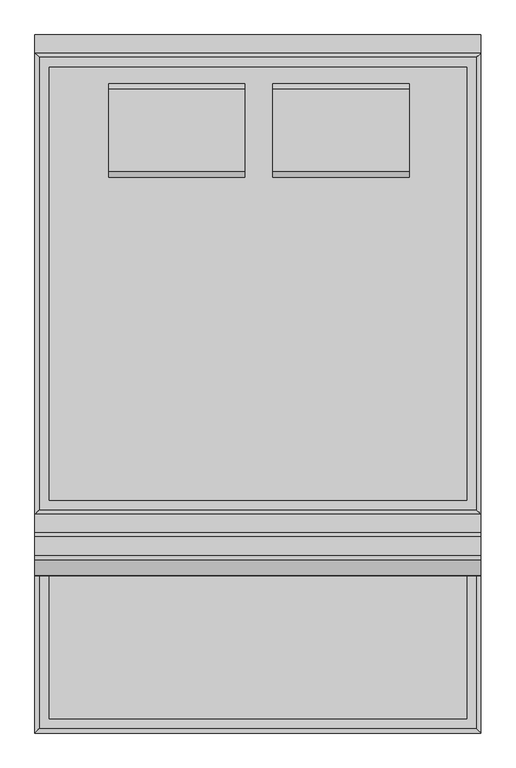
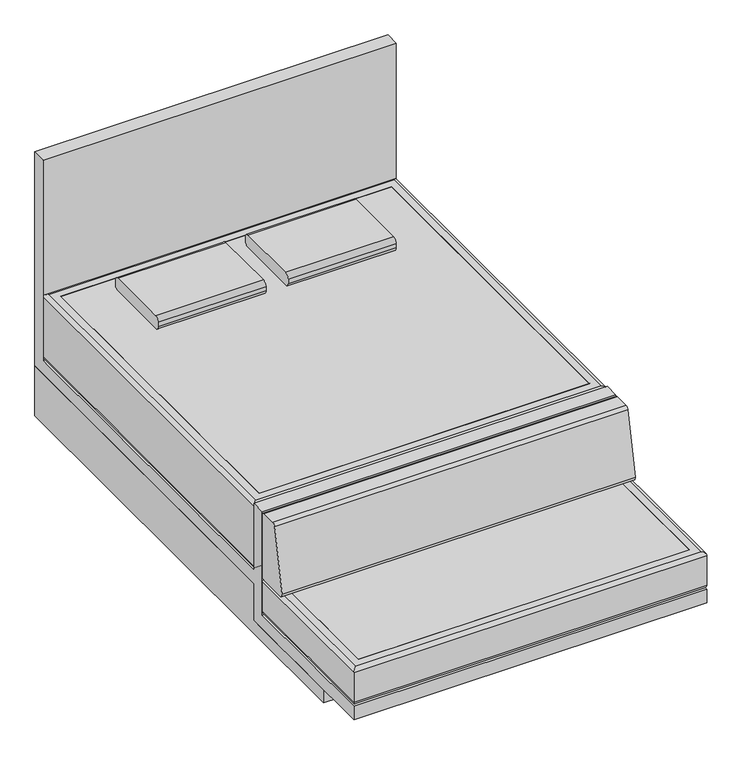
"""IFC4 building model written with IfcOpenShell, lengths in millimetres: proxy geometry, 双人床5 : 双人床5."""

from ifc_helpers import new_model, si_unit, point, frame, frame_2d, origin, place, context, project, spatial, polyline, circle_curve, ellipse_curve, trimmed, segment, composite_curve, outline, extrude, source, transform, mapped, element, save
from ifc_brep_helpers import plane_surface, cylinder_surface, advanced_brep


def generic_models_9412027a(model_context):
    return source(origin(), model_context, "Body", "SolidModel", [
        extrude(outline(polyline([(-780.0, 80.0), (-780.0, 160.0), (120.0, 160.0), (120.0, 780.0), (200.0, 780.0), (200.0, 380.0), (2270.0, 380.0), (2270.0, 1580.0), (2350.0, 1580.0), (2350.0, 380.0), (2350.0, 300.0), (200.0, 300.0), (200.0, 80.0), (120.0, 80.0), (-780.0, 80.0)])), frame((-1750.0, 0.0, 0.0), z_axis=(1.0, 0.0, 0.0), x_axis=(0.0, 1.0, 0.0)), (0.0, 0.0, 1.0), 2000.0),
        extrude(outline(polyline([(2350.0, 0.0), (-480.0, 0.0), (-480.0, 80.0), (120.0, 80.0), (200.0, 80.0), (200.0, 300.0), (2350.0, 300.0), (2350.0, 0.0)])), frame((170.0, 0.0, 0.0), z_axis=(1.0, 0.0, 0.0), x_axis=(0.0, 1.0, 0.0)), (0.0, 0.0, 1.0), 80.0),
        extrude(outline(polyline([(2350.0, 0.0), (-480.0, 0.0), (-480.0, 80.0), (120.0, 80.0), (200.0, 80.0), (200.0, 300.0), (2350.0, 300.0), (2350.0, 0.0)])), frame((-1750.0, 0.0, 0.0), z_axis=(1.0, 0.0, 0.0), x_axis=(0.0, 1.0, 0.0)), (0.0, 0.0, 1.0), 80.0),
        advanced_brep(
        [(250.0, 2270.0, 405.0), (250.0, 2270.0, 760.0), (250.0, 200.0, 760.0), (250.0, 200.0, 405.0), (225.0, 2245.0, 380.0), (225.0, 225.0, 380.0), (185.660139, 2205.660139, 780.0), (185.660139, 2205.660139, 380.0), (185.660139, 264.339861, 380.0), (185.660139, 264.339861, 780.0), (-1750.0, 200.0, 760.0), (-1750.0, 200.0, 405.0), (-1725.0, 225.0, 380.0), (-1685.660139, 264.339861, 380.0), (-1685.660139, 264.339861, 780.0), (-1750.0, 2270.0, 760.0), (-1750.0, 2270.0, 405.0), (-1725.0, 2245.0, 380.0), (-1685.660139, 2205.660139, 380.0), (-1685.660139, 2205.660139, 780.0), (230.0, 2250.0, 780.0), (230.0, 220.0, 780.0), (-1730.0, 220.0, 780.0), (-1730.0, 2250.0, 780.0)],
        [
            (0, 1),
            (1, 2),
            (2, 3),
            (3, 0),
            (4, 0, ellipse_curve(frame((225.0, 2245.0, 405.0), z_axis=(0.7071067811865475, -0.7071067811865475, 0.0), x_axis=(0.7071067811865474, 0.7071067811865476, 0.0)), 35.3553391, 25.0)),
            (3, 5, ellipse_curve(frame((225.0, 225.0, 405.0), z_axis=(0.7071067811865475, 0.7071067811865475, 0.0), x_axis=(-0.7071067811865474, 0.7071067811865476, 0.0)), 35.3553391, 25.0)),
            (5, 4),
            (6, 7),
            (7, 8),
            (8, 9),
            (9, 6),
            (2, 10),
            (10, 11),
            (11, 3),
            (11, 12, ellipse_curve(frame((-1725.0, 225.0, 405.0), z_axis=(0.7071067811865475, -0.7071067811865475, 0.0), x_axis=(0.7071067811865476, 0.7071067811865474, 0.0)), 35.3553391, 25.0)),
            (12, 5),
            (8, 13),
            (13, 14),
            (14, 9),
            (10, 15),
            (15, 16),
            (16, 11),
            (16, 17, ellipse_curve(frame((-1725.0, 2245.0, 405.0), z_axis=(-0.7071067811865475, -0.7071067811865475, 0.0), x_axis=(0.7071067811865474, -0.7071067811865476, 0.0)), 35.3553391, 25.0)),
            (17, 12),
            (13, 18),
            (18, 19),
            (19, 14),
            (15, 1),
            (0, 16),
            (4, 17),
            (7, 18),
            (6, 19),
            (1, 20, ellipse_curve(frame((230.0, 2250.0, 760.0), z_axis=(0.7071067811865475, -0.7071067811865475, 0.0), x_axis=(0.7071067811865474, 0.7071067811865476, 0.0)), 28.2842712, 20.0)),
            (20, 21),
            (21, 2, ellipse_curve(frame((230.0, 220.0, 760.0), z_axis=(0.7071067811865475, 0.7071067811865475, 0.0), x_axis=(-0.7071067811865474, 0.7071067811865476, 0.0)), 28.2842712, 20.0)),
            (21, 22),
            (22, 10, ellipse_curve(frame((-1730.0, 220.0, 760.0), z_axis=(0.7071067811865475, -0.7071067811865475, 0.0), x_axis=(0.7071067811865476, 0.7071067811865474, 0.0)), 28.2842712, 20.0)),
            (22, 23),
            (23, 15, ellipse_curve(frame((-1730.0, 2250.0, 760.0), z_axis=(-0.7071067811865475, -0.7071067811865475, 0.0), x_axis=(0.7071067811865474, -0.7071067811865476, 0.0)), 28.2842712, 20.0)),
            (20, 23),
        ],
        [
            plane_surface(frame((250.0, 2270.0, 760.0), z_axis=(1.0, 0.0, 0.0), x_axis=(0.0, -1.0, 0.0))),
            cylinder_surface(frame((225.0, 2270.0, 405.0), z_axis=(0.0, 1.0, 0.0), x_axis=(1.0, 0.0, 0.0)), 25.0),
            plane_surface(frame((185.660139, 2205.660139, 380.0), z_axis=(-1.0, 0.0, 0.0), x_axis=(0.0, -1.0, 0.0))),
            plane_surface(frame((250.0, 200.0, 760.0), z_axis=(0.0, -1.0, 0.0), x_axis=(-1.0, 0.0, 0.0))),
            cylinder_surface(frame((250.0, 225.0, 405.0), z_axis=(1.0, 0.0, 0.0), x_axis=(0.0, -1.0, 0.0)), 25.0),
            plane_surface(frame((185.660139, 264.339861, 380.0), z_axis=(0.0, 1.0, 0.0), x_axis=(-1.0, 0.0, 0.0))),
            plane_surface(frame((-1750.0, 200.0, 760.0), z_axis=(-1.0, 0.0, 0.0), x_axis=(0.0, 1.0, 0.0))),
            cylinder_surface(frame((-1725.0, 200.0, 405.0), z_axis=(0.0, -1.0, 0.0), x_axis=(-1.0, 0.0, 0.0)), 25.0),
            plane_surface(frame((-1685.660139, 264.339861, 380.0), z_axis=(1.0, 0.0, 0.0), x_axis=(0.0, 1.0, 0.0))),
            plane_surface(frame((-1750.0, 2270.0, 760.0), z_axis=(0.0, 1.0, 0.0), x_axis=(1.0, 0.0, 0.0))),
            cylinder_surface(frame((-1750.0, 2245.0, 405.0), z_axis=(-1.0, 0.0, 0.0), x_axis=(0.0, 1.0, 0.0)), 25.0),
            plane_surface(frame((-1725.0, 2245.0, 380.0), z_axis=(0.0, 0.0, -1.0), x_axis=(1.0, 0.0, 0.0))),
            plane_surface(frame((-1685.660139, 2205.660139, 380.0), z_axis=(0.0, -1.0, 0.0), x_axis=(1.0, 0.0, 0.0))),
            cylinder_surface(frame((230.0, 2270.0, 760.0), z_axis=(0.0, 1.0, 0.0), x_axis=(1.0, 0.0, 0.0)), 20.0),
            cylinder_surface(frame((250.0, 220.0, 760.0), z_axis=(1.0, 0.0, 0.0), x_axis=(0.0, -1.0, 0.0)), 20.0),
            cylinder_surface(frame((-1730.0, 200.0, 760.0), z_axis=(0.0, -1.0, 0.0), x_axis=(-1.0, 0.0, 0.0)), 20.0),
            plane_surface(frame((-1685.660139, 2205.660139, 780.0), z_axis=(0.0, 0.0, 1.0), x_axis=(1.0, 0.0, 0.0))),
            cylinder_surface(frame((-1750.0, 2250.0, 760.0), z_axis=(-1.0, 0.0, 0.0), x_axis=(0.0, 1.0, 0.0)), 20.0),
        ],
        [
            (0, [[1, 2, 3, 4]]),
            (1, [[5, -4, 6, 7]]),
            (2, [[8, 9, 10, 11]]),
            (3, [[-3, 12, 13, 14]]),
            (4, [[-6, -14, 15, 16]]),
            (5, [[-10, 17, 18, 19]]),
            (6, [[-13, 20, 21, 22]]),
            (7, [[-15, -22, 23, 24]]),
            (8, [[-18, 25, 26, 27]]),
            (9, [[-21, 28, -1, 29]]),
            (10, [[-23, -29, -5, 30]]),
            (11, [[-16, -24, -30, -7], [31, -25, -17, -9]]),
            (12, [[-26, -31, -8, 32]]),
            (13, [[33, 34, 35, -2]]),
            (14, [[-35, 36, 37, -12]]),
            (15, [[-37, 38, 39, -20]]),
            (16, [[40, -38, -36, -34], [-19, -27, -32, -11]]),
            (17, [[-39, -40, -33, -28]]),
        ],
    ),
        extrude(outline(polyline([(190.0, 2205.660139), (190.0, 264.339861), (-1685.660139, 264.339861), (-1685.660139, 2205.660139), (190.0, 2205.660139)])), frame((0.0, 0.0, 380.0), z_axis=(0.0, 0.0, 1.0), x_axis=(1.0, 0.0, 0.0)), (0.0, 0.0, 1.0), 400.0),
        advanced_brep(
        [(250.0, 120.0, 185.0), (250.0, 120.0, 360.0), (250.0, -780.0, 360.0), (250.0, -780.0, 185.0), (225.0, 95.0, 160.0), (225.0, -755.0, 160.0), (185.660139, 55.660139, 380.0), (185.660139, 55.660139, 160.0), (185.660139, -715.660139, 160.0), (185.660139, -715.660139, 380.0), (-1750.0, -780.0, 360.0), (-1750.0, -780.0, 185.0), (-1725.0, -755.0, 160.0), (-1685.660139, -715.660139, 160.0), (-1685.660139, -715.660139, 380.0), (-1750.0, 120.0, 360.0), (-1750.0, 120.0, 185.0), (-1725.0, 95.0, 160.0), (-1685.660139, 55.660139, 160.0), (-1685.660139, 55.660139, 380.0), (230.0, 100.0, 380.0), (230.0, -760.0, 380.0), (-1730.0, -760.0, 380.0), (-1730.0, 100.0, 380.0)],
        [
            (0, 1),
            (1, 2),
            (2, 3),
            (3, 0),
            (4, 0, ellipse_curve(frame((225.0, 95.0, 185.0), z_axis=(0.7071067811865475, -0.7071067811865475, 0.0), x_axis=(0.7071067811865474, 0.7071067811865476, 0.0)), 35.3553391, 25.0)),
            (3, 5, ellipse_curve(frame((225.0, -755.0, 185.0), z_axis=(0.7071067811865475, 0.7071067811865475, 0.0), x_axis=(-0.7071067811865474, 0.7071067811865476, 0.0)), 35.3553391, 25.0)),
            (5, 4),
            (6, 7),
            (7, 8),
            (8, 9),
            (9, 6),
            (2, 10),
            (10, 11),
            (11, 3),
            (11, 12, ellipse_curve(frame((-1725.0, -755.0, 185.0), z_axis=(0.7071067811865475, -0.7071067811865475, 0.0), x_axis=(0.7071067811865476, 0.7071067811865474, 0.0)), 35.3553391, 25.0)),
            (12, 5),
            (8, 13),
            (13, 14),
            (14, 9),
            (10, 15),
            (15, 16),
            (16, 11),
            (16, 17, ellipse_curve(frame((-1725.0, 95.0, 185.0), z_axis=(-0.7071067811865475, -0.7071067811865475, 0.0), x_axis=(0.7071067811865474, -0.7071067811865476, 0.0)), 35.3553391, 25.0)),
            (17, 12),
            (13, 18),
            (18, 19),
            (19, 14),
            (15, 1),
            (0, 16),
            (4, 17),
            (7, 18),
            (6, 19),
            (1, 20, ellipse_curve(frame((230.0, 100.0, 360.0), z_axis=(0.7071067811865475, -0.7071067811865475, 0.0), x_axis=(0.7071067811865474, 0.7071067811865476, 0.0)), 28.2842712, 20.0)),
            (20, 21),
            (21, 2, ellipse_curve(frame((230.0, -760.0, 360.0), z_axis=(0.7071067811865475, 0.7071067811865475, 0.0), x_axis=(-0.7071067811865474, 0.7071067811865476, 0.0)), 28.2842712, 20.0)),
            (21, 22),
            (22, 10, ellipse_curve(frame((-1730.0, -760.0, 360.0), z_axis=(0.7071067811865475, -0.7071067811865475, 0.0), x_axis=(0.7071067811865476, 0.7071067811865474, 0.0)), 28.2842712, 20.0)),
            (22, 23),
            (23, 15, ellipse_curve(frame((-1730.0, 100.0, 360.0), z_axis=(-0.7071067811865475, -0.7071067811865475, 0.0), x_axis=(0.7071067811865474, -0.7071067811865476, 0.0)), 28.2842712, 20.0)),
            (20, 23),
        ],
        [
            plane_surface(frame((250.0, 120.0, 360.0), z_axis=(1.0, 0.0, 0.0), x_axis=(0.0, -1.0, 0.0))),
            cylinder_surface(frame((225.0, 120.0, 185.0), z_axis=(0.0, 1.0, 0.0), x_axis=(1.0, 0.0, 0.0)), 25.0),
            plane_surface(frame((185.660139, 55.660139, 160.0), z_axis=(-1.0, 0.0, 0.0), x_axis=(0.0, -1.0, 0.0))),
            plane_surface(frame((250.0, -780.0, 360.0), z_axis=(0.0, -1.0, 0.0), x_axis=(-1.0, 0.0, 0.0))),
            cylinder_surface(frame((250.0, -755.0, 185.0), z_axis=(1.0, 0.0, 0.0), x_axis=(0.0, -1.0, 0.0)), 25.0),
            plane_surface(frame((185.660139, -715.660139, 160.0), z_axis=(0.0, 1.0, 0.0), x_axis=(-1.0, 0.0, 0.0))),
            plane_surface(frame((-1750.0, -780.0, 360.0), z_axis=(-1.0, 0.0, 0.0), x_axis=(0.0, 1.0, 0.0))),
            cylinder_surface(frame((-1725.0, -780.0, 185.0), z_axis=(0.0, -1.0, 0.0), x_axis=(-1.0, 0.0, 0.0)), 25.0),
            plane_surface(frame((-1685.660139, -715.660139, 160.0), z_axis=(1.0, 0.0, 0.0), x_axis=(0.0, 1.0, 0.0))),
            plane_surface(frame((-1750.0, 120.0, 360.0), z_axis=(0.0, 1.0, 0.0), x_axis=(1.0, 0.0, 0.0))),
            cylinder_surface(frame((-1750.0, 95.0, 185.0), z_axis=(-1.0, 0.0, 0.0), x_axis=(0.0, 1.0, 0.0)), 25.0),
            plane_surface(frame((-1725.0, 95.0, 160.0), z_axis=(0.0, 0.0, -1.0), x_axis=(1.0, 0.0, 0.0))),
            plane_surface(frame((-1685.660139, 55.660139, 160.0), z_axis=(0.0, -1.0, 0.0), x_axis=(1.0, 0.0, 0.0))),
            cylinder_surface(frame((230.0, 120.0, 360.0), z_axis=(0.0, 1.0, 0.0), x_axis=(1.0, 0.0, 0.0)), 20.0),
            cylinder_surface(frame((250.0, -760.0, 360.0), z_axis=(1.0, 0.0, 0.0), x_axis=(0.0, -1.0, 0.0)), 20.0),
            cylinder_surface(frame((-1730.0, -780.0, 360.0), z_axis=(0.0, -1.0, 0.0), x_axis=(-1.0, 0.0, 0.0)), 20.0),
            plane_surface(frame((-1685.660139, 55.660139, 380.0), z_axis=(0.0, 0.0, 1.0), x_axis=(1.0, 0.0, 0.0))),
            cylinder_surface(frame((-1750.0, 100.0, 360.0), z_axis=(-1.0, 0.0, 0.0), x_axis=(0.0, 1.0, 0.0)), 20.0),
        ],
        [
            (0, [[1, 2, 3, 4]]),
            (1, [[5, -4, 6, 7]]),
            (2, [[8, 9, 10, 11]]),
            (3, [[-3, 12, 13, 14]]),
            (4, [[-6, -14, 15, 16]]),
            (5, [[-10, 17, 18, 19]]),
            (6, [[-13, 20, 21, 22]]),
            (7, [[-15, -22, 23, 24]]),
            (8, [[-18, 25, 26, 27]]),
            (9, [[-21, 28, -1, 29]]),
            (10, [[-23, -29, -5, 30]]),
            (11, [[-16, -24, -30, -7], [31, -25, -17, -9]]),
            (12, [[-26, -31, -8, 32]]),
            (13, [[33, 34, 35, -2]]),
            (14, [[-35, 36, 37, -12]]),
            (15, [[-37, 38, 39, -20]]),
            (16, [[40, -38, -36, -34], [-19, -27, -32, -11]]),
            (17, [[-39, -40, -33, -28]]),
        ],
    ),
        extrude(outline(polyline([(190.0, 55.660139), (190.0, -715.660139), (-1685.660139, -715.660139), (-1685.660139, 55.660139), (190.0, 55.660139)])), frame((0.0, 0.0, 160.0), z_axis=(0.0, 0.0, 1.0), x_axis=(1.0, 0.0, 0.0)), (0.0, 0.0, 1.0), 220.0),
        extrude(outline(composite_curve([segment(polyline([(120.0, 760.0), (120.0, 400.0)]), True, "CONTINUOUS"), segment(trimmed(circle_curve(frame_2d((100.0, 400.0)), 20.0), [point((120.0, 400.0))], [point((100.0, 380.0))], False, "CARTESIAN"), True, "CONTINUOUS"), segment(polyline([(100.0, 380.0), (-55.6039219, 380.0)]), True, "CONTINUOUS"), segment(trimmed(circle_curve(frame_2d((-55.6039219, 400.0)), 20.0), [point((-55.6039219, 380.0))], [point((-75.2155355, 403.9223227))], False, "CARTESIAN"), True, "CONTINUOUS"), segment(polyline([(-75.2155355, 403.9223227), (-3.2155355, 763.9223227)]), True, "CONTINUOUS"), segment(trimmed(circle_curve(frame_2d((16.3960781, 760.0)), 20.0), [point((-3.2155355, 763.9223227))], [point((16.3960781, 780.0))], False, "CARTESIAN"), True, "CONTINUOUS"), segment(polyline([(16.3960781, 780.0), (100.0, 780.0)]), True, "CONTINUOUS"), segment(trimmed(circle_curve(frame_2d((100.0, 760.0)), 20.0), [point((100.0, 780.0))], [point((120.0, 760.0))], False, "CARTESIAN"), True, "CONTINUOUS")], self_intersect=False)), frame((-1750.0, 0.0, 0.0), z_axis=(1.0, 0.0, 0.0), x_axis=(0.0, 1.0, 0.0)), (0.0, 0.0, 1.0), 2000.0),
        extrude(outline(composite_curve([segment(polyline([(2105.7728028, 780.0), (1737.4728028, 780.0)]), True, "CONTINUOUS"), segment(trimmed(circle_curve(frame_2d((1737.4728028, 805.4)), 25.4), [point((1737.4728028, 780.0))], [point((1712.0728028, 805.4))], False, "CARTESIAN"), True, "CONTINUOUS"), segment(polyline([(1712.0728028, 805.4), (1712.0728028, 830.8)]), True, "CONTINUOUS"), segment(trimmed(circle_curve(frame_2d((1737.4728028, 830.8)), 25.4), [point((1712.0728028, 830.8))], [point((1737.4728028, 856.2))], False, "CARTESIAN"), True, "CONTINUOUS"), segment(polyline([(1737.4728028, 856.2), (2105.7728028, 856.2)]), True, "CONTINUOUS"), segment(trimmed(circle_curve(frame_2d((2105.7728028, 830.8)), 25.4), [point((2105.7728028, 856.2))], [point((2131.1728028, 830.8))], False, "CARTESIAN"), True, "CONTINUOUS"), segment(polyline([(2131.1728028, 830.8), (2131.1728028, 805.4)]), True, "CONTINUOUS"), segment(trimmed(circle_curve(frame_2d((2105.7728028, 805.4)), 25.4), [point((2131.1728028, 805.4))], [point((2105.7728028, 780.0))], False, "CARTESIAN"), True, "CONTINUOUS")], self_intersect=False)), frame((-1419.9485287, 0.0, 0.0), z_axis=(1.0, 0.0, 0.0), x_axis=(0.0, 1.0, 0.0)), (0.0, 0.0, 1.0), 610.3),
        extrude(outline(composite_curve([segment(polyline([(2105.7728028, 780.0), (1737.4728028, 780.0)]), True, "CONTINUOUS"), segment(trimmed(circle_curve(frame_2d((1737.4728028, 805.4)), 25.4), [point((1737.4728028, 780.0))], [point((1712.0728028, 805.4))], False, "CARTESIAN"), True, "CONTINUOUS"), segment(polyline([(1712.0728028, 805.4), (1712.0728028, 830.8)]), True, "CONTINUOUS"), segment(trimmed(circle_curve(frame_2d((1737.4728028, 830.8)), 25.4), [point((1712.0728028, 830.8))], [point((1737.4728028, 856.2))], False, "CARTESIAN"), True, "CONTINUOUS"), segment(polyline([(1737.4728028, 856.2), (2105.7728028, 856.2)]), True, "CONTINUOUS"), segment(trimmed(circle_curve(frame_2d((2105.7728028, 830.8)), 25.4), [point((2105.7728028, 856.2))], [point((2131.1728028, 830.8))], False, "CARTESIAN"), True, "CONTINUOUS"), segment(polyline([(2131.1728028, 830.8), (2131.1728028, 805.4)]), True, "CONTINUOUS"), segment(trimmed(circle_curve(frame_2d((2105.7728028, 805.4)), 25.4), [point((2131.1728028, 805.4))], [point((2105.7728028, 780.0))], False, "CARTESIAN"), True, "CONTINUOUS")], self_intersect=False)), frame((-682.6485287, 0.0, 0.0), z_axis=(1.0, 0.0, 0.0), x_axis=(0.0, 1.0, 0.0)), (0.0, 0.0, 1.0), 610.3),
    ])


if __name__ == "__main__":
    model = new_model("IFC4")
    model_context = context("Model", 3, world=origin())
    ifc_project = project(units=[si_unit("LENGTHUNIT", "METRE", prefix="MILLI")], contexts=[model_context])
    site = spatial("IfcSite", under=ifc_project)
    building = spatial("IfcBuilding", under=site)
    placement = place(None, origin())
    generic_models_shape = generic_models_9412027a(model_context)
    element("IfcBuildingElementProxy", 1, Name="双人床5 : 双人床5", ObjectType="双人床5 : 双人床5", at=placement, inside=building, context=model_context, shape_type="MappedRepresentation", body=[
        mapped(generic_models_shape, transform((0.0, 0.0, 0.0), x_axis=(1.0, 0.0, 0.0), y_axis=(0.0, 1.0, 0.0), z_axis=(0.0, 0.0, 1.0))),
    ])
    save(model, "model.ifc")
